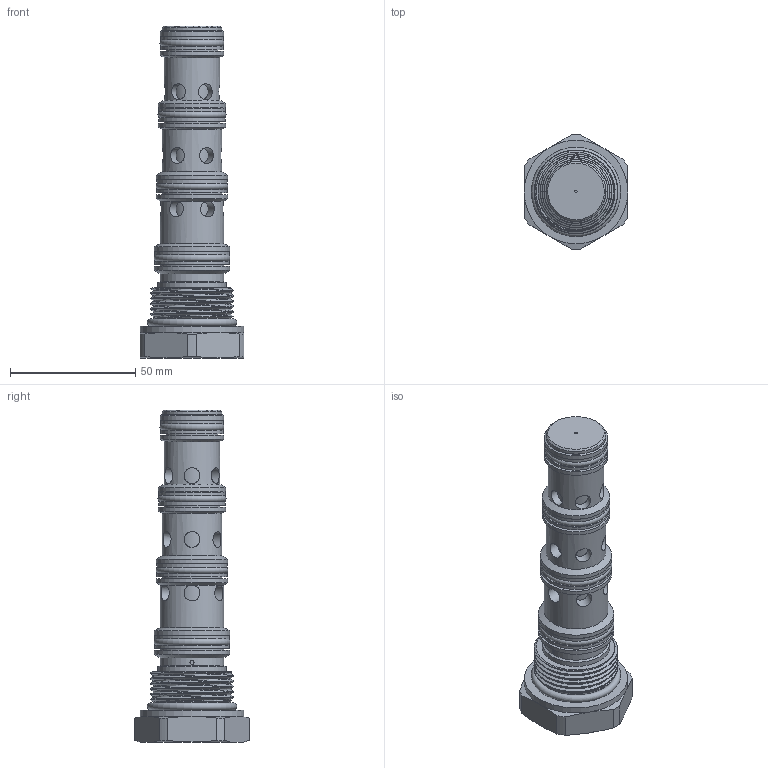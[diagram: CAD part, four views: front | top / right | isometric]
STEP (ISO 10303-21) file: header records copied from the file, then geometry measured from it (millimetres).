
FILE_DESCRIPTION(/* description */ (''),/* implementation_level */ '2;1');
FILE_NAME(/* name */ 'P:\EARS\EAR16xx\EAR1683 - catalog pages changes\Group1_Distribution 11_22_22\RTeck Agency_Tom\_SolidModels\HSOPTS00.stp',/* time_stamp */ '2022-12-16T11:27:33-06:00',/* author */ ('Michael'),/* organization */ (''),/* preprocessor_version */ 'ST-DEVELOPER v17.2',/* originating_system */ 'Autodesk Inventor 2019',/* authorisation */ '');
FILE_SCHEMA (('AUTOMOTIVE_DESIGN { 1 0 10303 214 3 1 1 }'));
Length unit declared in the file: inch
Products named in the file (1): HSOPTS00
Bounding box: 41.27 x 45.7 x 132.41 mm (x, y, z)
Volume: 81205.9 mm3; surface area: 24713.9 mm2
Topology: 1 solids, 2 shells, 195 faces, 485 edges, 337 vertices
Faces by surface type: cylinder 101, plane 57, cone 26, torus 6, bspline 5
Full cylindrical faces by diameter (mm): 0.914 x1, 1.6 x2, 6.35 x18, 11.913 x1, 12.7 x1, 14.859 x1, 15.24 x1, 15.875 x2, 15.897 x1, 20.93 x4, 22.225 x1, 22.504 x4, 23.825 x2, 24.105 x4, 24.943 x2, 25.349 x2, 25.4 x2, 25.679 x4, 26.543 x2, 26.924 x2, 27.153 x1, 28.118 x2, 28.524 x2, 29.718 x2, 30.099 x2, 30.328 x2, 33.337 x4, 41.275 x1
Entity records: 10156 total; most frequent: CARTESIAN_POINT 5229, DIRECTION 978, ORIENTED_EDGE 970, EDGE_CURVE 485, AXIS2_PLACEMENT_3D 437, VERTEX_POINT 337, EDGE_LOOP 249, CIRCLE 234
